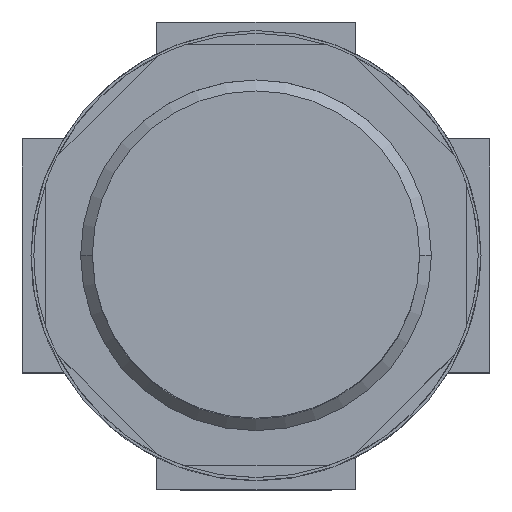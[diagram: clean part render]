
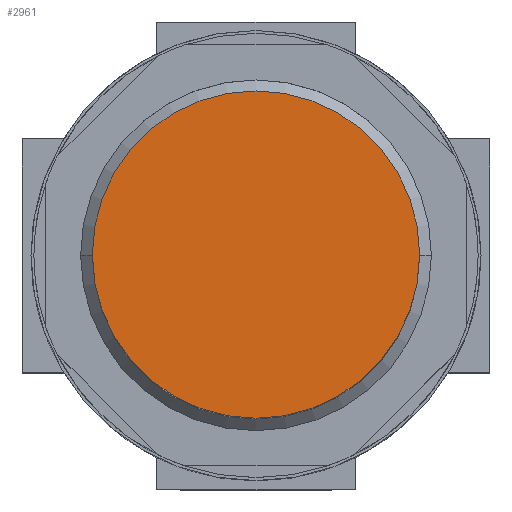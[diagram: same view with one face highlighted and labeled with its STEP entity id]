
A CAD part, top view. The second image highlights one B-rep face of the part: STEP entity #2961.
In plain terms, the highlighted planar face has unit normal (0, 0, 1) as drawn and (0, 0, -1) by its records, which use the part's own axes.
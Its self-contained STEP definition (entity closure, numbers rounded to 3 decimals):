
#356=CARTESIAN_POINT('',(14.0,0.0,-47.0));
#357=VERTEX_POINT('',#356);
#366=CARTESIAN_POINT('',(-14.0,0.,-47.0));
#367=VERTEX_POINT('',#366);
#368=CARTESIAN_POINT('',(0.0,0.0,-47.0));
#369=DIRECTION('',(0.0,0.0,1.0));
#370=DIRECTION('',(1.0,0.0,0.0));
#371=AXIS2_PLACEMENT_3D('',#368,#369,#370);
#372=CIRCLE('',#371,14.0);
#373=EDGE_CURVE('',#357,#367,#372,.T.);
#2946=CARTESIAN_POINT('',(7.0,0.0,-47.0));
#2947=DIRECTION('',(0.0,0.0,-1.0));
#2948=DIRECTION('',(-1.0,0.0,0.0));
#2949=AXIS2_PLACEMENT_3D('',#2946,#2947,#2948);
#2950=PLANE('',#2949);
#2951=ORIENTED_EDGE('',*,*,#373,.F.);
#2952=CARTESIAN_POINT('',(0.0,0.0,-47.0));
#2953=DIRECTION('',(0.0,0.0,1.0));
#2954=DIRECTION('',(1.0,0.0,0.0));
#2955=AXIS2_PLACEMENT_3D('',#2952,#2953,#2954);
#2956=CIRCLE('',#2955,14.0);
#2957=EDGE_CURVE('',#367,#357,#2956,.T.);
#2958=ORIENTED_EDGE('',*,*,#2957,.F.);
#2959=EDGE_LOOP('',(#2951,#2958));
#2960=FACE_OUTER_BOUND('',#2959,.T.);
#2961=ADVANCED_FACE('',(#2960),#2950,.T.);
